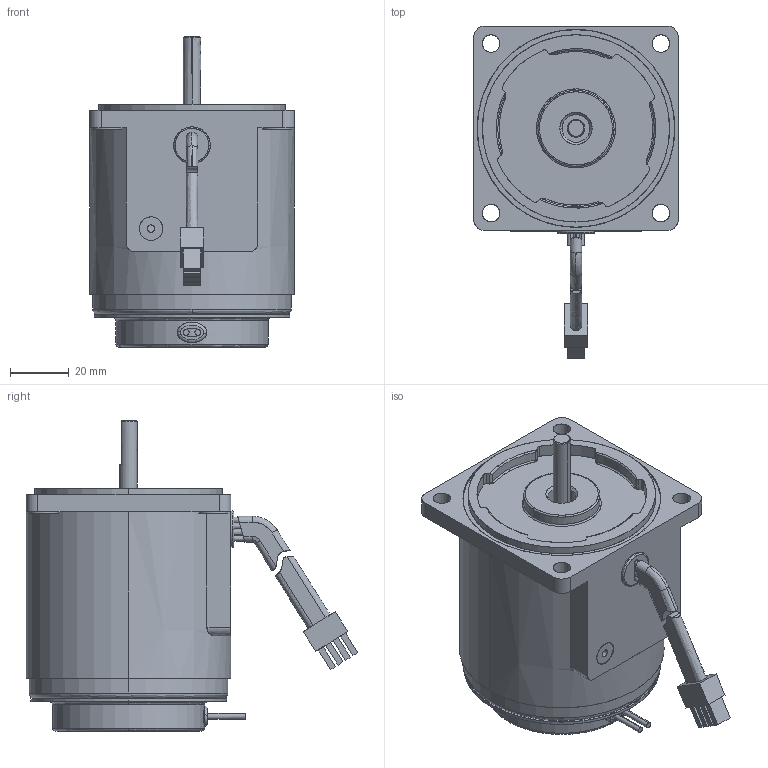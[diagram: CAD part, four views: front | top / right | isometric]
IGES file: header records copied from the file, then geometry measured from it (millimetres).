
Start section: SolidWorks IGES file using analytic representation for surfaces
Global section: file name: \\楷备家烹钦辑滚\data (D)\档搁 枚\权其捞瘤 档搁\7. SPEED INDUCTION\70\10W\(7-9) 7SDD∴-10.IGS; native system: SolidWorks 2007; preprocessor: SolidWorks 2007; author: user; date: 150702.111312; units: millimetre
Bounding box: 70 x 113.4 x 106 mm (x, y, z)
Surface area: 67781.2 mm2 (no closed solid volume)
Topology: 0 solids, 0 shells, 309 faces, 5410 edges, 5410 vertices
Faces by surface type: bspline 187, revolution 122
